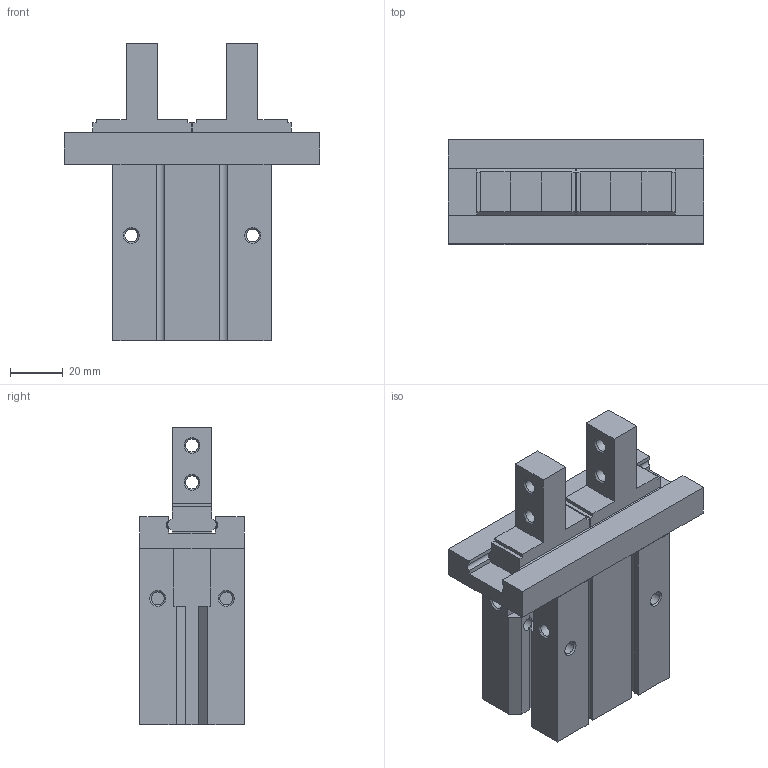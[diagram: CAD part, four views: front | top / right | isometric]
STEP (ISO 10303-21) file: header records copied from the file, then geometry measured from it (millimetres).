
FILE_DESCRIPTION( ( 'STEP AP214' ), '1' );
FILE_NAME( 'F:/CRG-3D-PAN-XU/CRG-chan pin kai fa cun dang - xu/协助/样品整理/平行夹/MHZ2-32D_26_0_.stp', '2023-03-07T10:06:09', ( '' ), ( '' ), ' ', 'PARTsolutions', ' ' );
FILE_SCHEMA( ( 'AUTOMOTIVE_DESIGN { 1 0 10303 214 1 1 1 1 }' ) );
Length unit declared in the file: millimetre
Products named in the file (3): MHZ2-32D(26_0); _MHZ2-32D_Body(0); _MHZ2-32D_Finger(0)
Assembly tree (3 placements, depth 2):
  MHZ2-32D(26_0)
    _MHZ2-32D_Body(0)
    _MHZ2-32D_Finger(0)  x2
Bounding box: 97 x 40 x 113 mm (x, y, z)
Volume: 192387.8 mm3; surface area: 42290.3 mm2
Topology: 3 solids, 3 shells, 202 faces, 516 edges, 330 vertices
Faces by surface type: plane 150, cylinder 30, cone 22
Full cylindrical faces by diameter (mm): 4.134 x2, 4.917 x12, 5 x1, 5.1 x4, 34 x1
Entity records: 6070 total; most frequent: CARTESIAN_POINT 810, DIRECTION 796, ORIENTED_EDGE 756, EDGE_CURVE 378, LINE 296, VECTOR 296, VERTEX_POINT 264, AXIS2_PLACEMENT_3D 250
